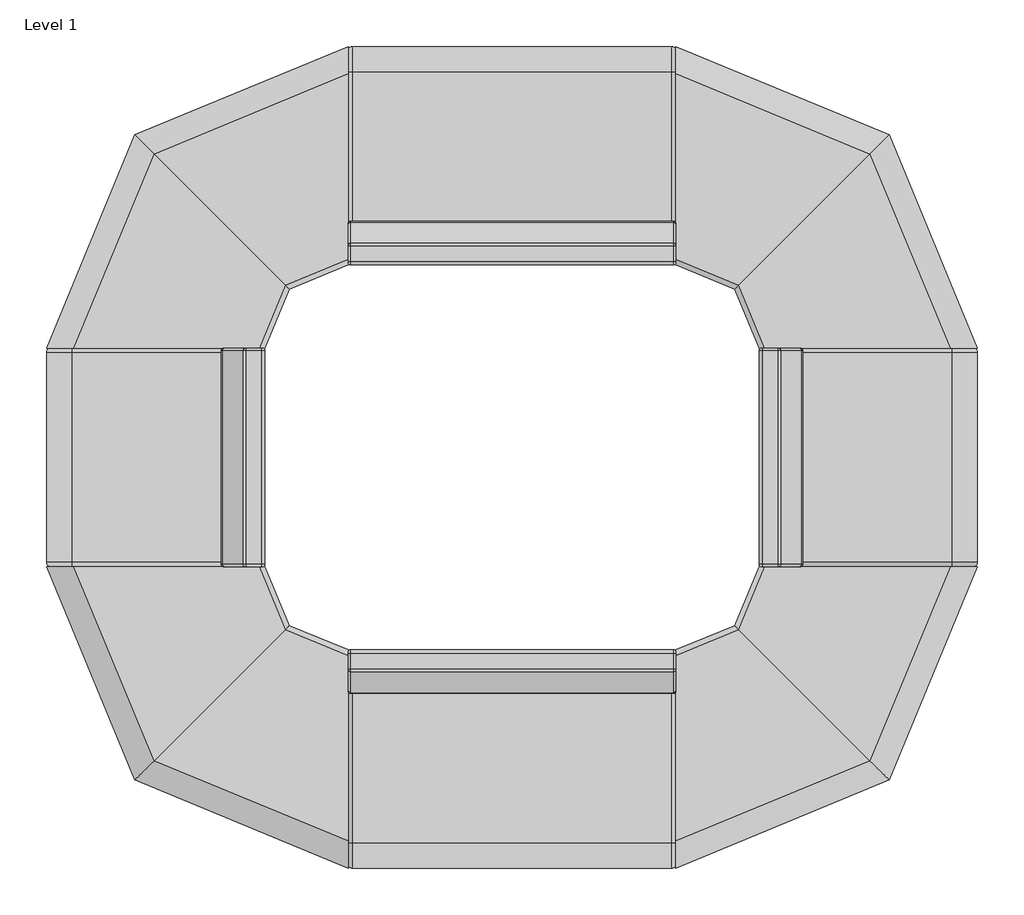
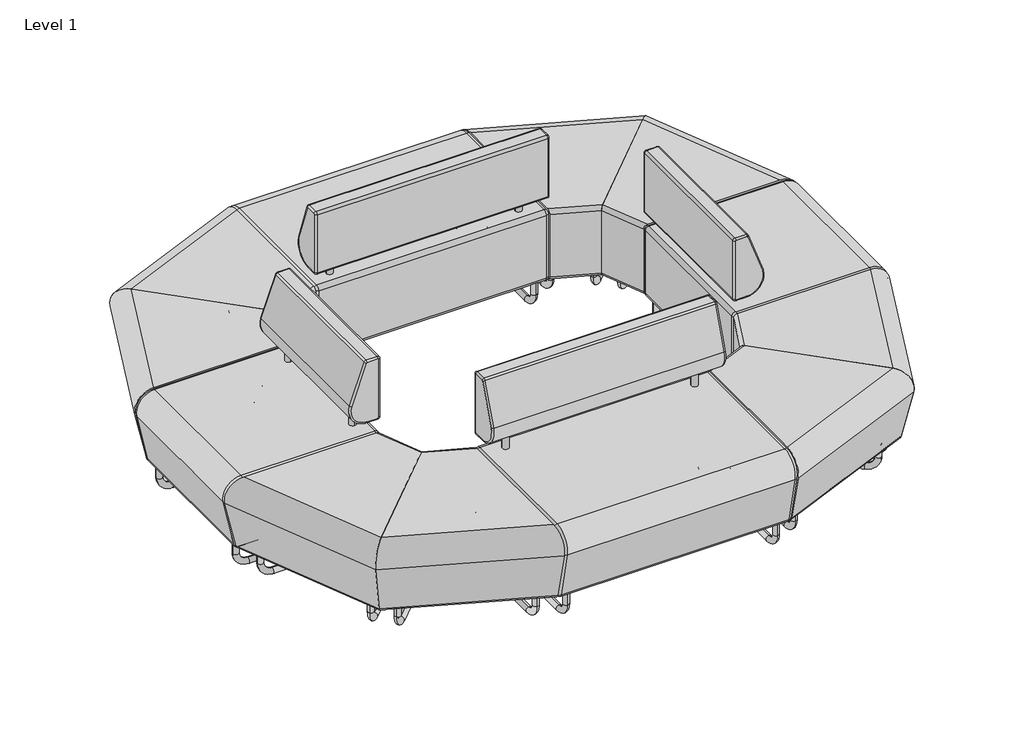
# One storey: 12 furniture elements.
"""IFC4 building model written with IfcOpenShell, lengths in millimetres."""

from ifc_helpers import new_model, si_unit, origin, place, context, project, spatial, transform, mapped, element, save
from components import lounge_seat_ki_hub_ab34b198, lounge_seat_ki_hub_0f860df9, lounge_seat_ki_hub_ottoman_19a636cd, lounge_seat_ki_hub_ottoman_141fb957

model = new_model("IFC4")

# Units and contexts
model_context = context("Model", 3, world=origin())
ifc_project = project(units=[si_unit("LENGTHUNIT", "METRE", prefix="MILLI")], contexts=[model_context])

# Site, building, storey
site = spatial("IfcSite", under=ifc_project)
building = spatial("IfcBuilding", under=site)
storey = spatial("IfcBuildingStorey", under=building, Name="Level 1", Elevation=0.0)

# Furniture
placement = place(None, origin())
lounge_seat_ki_hub_shape = lounge_seat_ki_hub_ab34b198(model_context)
element("IfcFurniture", 1, ObjectType="Lounge-Seat-KI-Hub : 26\"W, Armless, Contrast", at=placement, inside=storey, context=model_context, shape_type="MappedRepresentation", body=[
    mapped(lounge_seat_ki_hub_shape, transform((4980.7707641, 3905.6743679, 0.0), x_axis=(0.0, 1.0, 0.0), y_axis=(-1.0, 0.0, 0.0), z_axis=(0.0, 0.0, 1.0))),
])
element("IfcFurniture", 2, ObjectType="Lounge-Seat-KI-Hub : 26\"W, Armless, Contrast", at=placement, inside=storey, context=model_context, shape_type="MappedRepresentation", body=[
    mapped(lounge_seat_ki_hub_shape, transform((2825.2027891, 3905.6743679, 0.0), x_axis=(0.0, -1.0, 0.0), y_axis=(1.0, 0.0, 0.0), z_axis=(0.0, 0.0, 1.0))),
])
lounge_seat_ki_hub_2_shape = lounge_seat_ki_hub_0f860df9(model_context)
element("IfcFurniture", 3, ObjectType="Lounge-Seat-KI-Hub : 39\"W, Armless, Contrast", at=placement, inside=storey, context=model_context, shape_type="MappedRepresentation", body=[
    mapped(lounge_seat_ki_hub_2_shape, transform((3902.9867766, 2993.0898935, 0.0), x_axis=(1.0, 0.0, 0.0), y_axis=(0.0, 1.0, 0.0), z_axis=(0.0, 0.0, 1.0))),
])
element("IfcFurniture", 4, ObjectType="Lounge-Seat-KI-Hub : 39\"W, Armless, Contrast", at=placement, inside=storey, context=model_context, shape_type="MappedRepresentation", body=[
    mapped(lounge_seat_ki_hub_2_shape, transform((3902.9867766, 4818.2588424, 0.0), x_axis=(-1.0, 0.0, 0.0), y_axis=(0.0, -1.0, 0.0), z_axis=(0.0, 0.0, 1.0))),
])
lounge_seat_ki_hub_ottoman_shape = lounge_seat_ki_hub_ottoman_19a636cd(model_context)
element("IfcFurniture", 5, ObjectType="Lounge-Seat-KI-Hub-Ottoman : 45\x9d\x9d° Wedge - Outside", at=placement, inside=storey, context=model_context, shape_type="MappedRepresentation", body=[
    mapped(lounge_seat_ki_hub_ottoman_shape, transform((2910.4983075, 4441.7959651, 0.0), x_axis=(0.3826834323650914, 0.9238795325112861, 0.0), y_axis=(-0.9238795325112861, 0.3826834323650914, 0.0), z_axis=(0.0, 0.0, 1.0))),
])
element("IfcFurniture", 6, ObjectType="Lounge-Seat-KI-Hub-Ottoman : 45\x9d\x9d° Wedge - Outside", at=placement, inside=storey, context=model_context, shape_type="MappedRepresentation", body=[
    mapped(lounge_seat_ki_hub_ottoman_shape, transform((3201.7651795, 4732.963324, 0.0), x_axis=(0.92387953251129, 0.38268343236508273, 0.0), y_axis=(-0.38268343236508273, 0.92387953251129, 0.0), z_axis=(0.0, 0.0, 1.0))),
])
element("IfcFurniture", 7, ObjectType="Lounge-Seat-KI-Hub-Ottoman : 45\x9d\x9d° Wedge - Outside", at=placement, inside=storey, context=model_context, shape_type="MappedRepresentation", body=[
    mapped(lounge_seat_ki_hub_ottoman_shape, transform((4895.4752458, 3369.5527708, 0.0), x_axis=(-0.38268343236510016, -0.9238795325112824, 0.0), y_axis=(0.9238795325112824, -0.38268343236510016, 0.0), z_axis=(0.0, 0.0, 1.0))),
])
element("IfcFurniture", 8, ObjectType="Lounge-Seat-KI-Hub-Ottoman : 45\x9d\x9d° Wedge - Outside", at=placement, inside=storey, context=model_context, shape_type="MappedRepresentation", body=[
    mapped(lounge_seat_ki_hub_ottoman_shape, transform((4604.2083738, 3078.3854118, 0.0), x_axis=(-0.9238795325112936, -0.38268343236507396, 0.0), y_axis=(0.38268343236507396, -0.9238795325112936, 0.0), z_axis=(0.0, 0.0, 1.0))),
])
lounge_seat_ki_hub_ottoman_2_shape = lounge_seat_ki_hub_ottoman_141fb957(model_context)
element("IfcFurniture", 9, ObjectType="Lounge-Seat-KI-Hub-Ottoman : 45\x9d\x9d° Wedge - Outside", at=placement, inside=storey, context=model_context, shape_type="MappedRepresentation", body=[
    mapped(lounge_seat_ki_hub_ottoman_2_shape, transform((4895.4752458, 4441.7959651, 0.0), x_axis=(-0.3826834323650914, 0.9238795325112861, 0.0), y_axis=(-0.9238795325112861, -0.3826834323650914, 0.0), z_axis=(0.0, 0.0, 1.0))),
])
element("IfcFurniture", 10, ObjectType="Lounge-Seat-KI-Hub-Ottoman : 45\x9d\x9d° Wedge - Outside", at=placement, inside=storey, context=model_context, shape_type="MappedRepresentation", body=[
    mapped(lounge_seat_ki_hub_ottoman_2_shape, transform((4604.2083738, 4732.963324, 0.0), x_axis=(-0.92387953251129, 0.38268343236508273, 0.0), y_axis=(-0.38268343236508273, -0.92387953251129, 0.0), z_axis=(0.0, 0.0, 1.0))),
])
element("IfcFurniture", 11, ObjectType="Lounge-Seat-KI-Hub-Ottoman : 45\x9d\x9d° Wedge - Outside", at=placement, inside=storey, context=model_context, shape_type="MappedRepresentation", body=[
    mapped(lounge_seat_ki_hub_ottoman_2_shape, transform((2910.4983075, 3369.5527708, 0.0), x_axis=(0.3826834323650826, -0.9238795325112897, 0.0), y_axis=(0.9238795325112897, 0.3826834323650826, 0.0), z_axis=(0.0, 0.0, 1.0))),
])
element("IfcFurniture", 12, ObjectType="Lounge-Seat-KI-Hub-Ottoman : 45\x9d\x9d° Wedge - Outside", at=placement, inside=storey, context=model_context, shape_type="MappedRepresentation", body=[
    mapped(lounge_seat_ki_hub_ottoman_2_shape, transform((3201.7651795, 3078.3854118, 0.0), x_axis=(0.9238795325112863, -0.3826834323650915, 0.0), y_axis=(0.3826834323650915, 0.9238795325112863, 0.0), z_axis=(0.0, 0.0, 1.0))),
])

save(model, "model.ifc")
